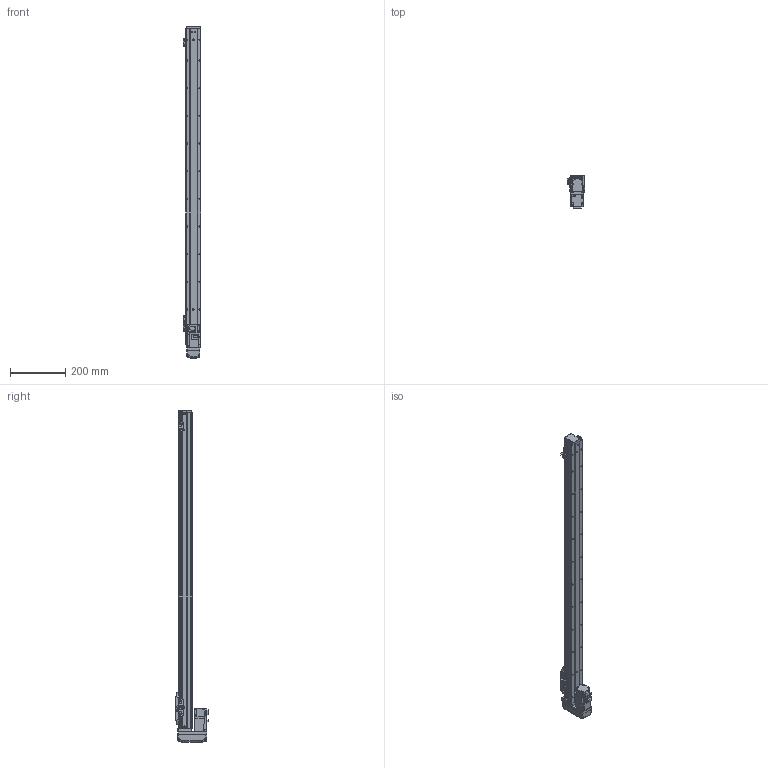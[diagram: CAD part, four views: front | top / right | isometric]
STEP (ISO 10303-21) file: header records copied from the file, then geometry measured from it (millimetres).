
FILE_DESCRIPTION (( 'STEP AP203' ), '1' );
FILE_NAME ('GTH5-1000-BM-M10-C4.step', '2023-08-28T00:50:17', ( '微软用户' ), ( '微软中国' ), 'SwSTEP 2.0', 'SolidWorks 2020', '' );
FILE_SCHEMA (( 'CONFIG_CONTROL_DESIGN' ));
Length unit declared in the file: millimetre
Products named in the file (19): GTH50-023; HG-KR13; GBT 70.3-M3℅6; GBT 70.1-M3℅6; GTH50-027-1_BTHA50-027-2; BTH-M3X5X6; GBT96.1-2002 3×0.8; GTH50-026; GTH50-001_1000; GTH50-024; GTH5-1000-BM-M10-C4; GBT 70.1-M4×16; GBT 70.1-M2.5×6; GTH50-003; GTH50-028; GTH50-006; GTH50-013; GTH50-022-1; GTH50-004
Assembly tree (57 placements, depth 2):
  GTH5-1000-BM-M10-C4
    GTH50-006
    GTH50-004
    GBT 70.3-M3℅6  x4
    BTH-M3X5X6  x8
    GTH50-001_1000
    GBT 70.1-M4×16  x8
    GTH50-003
    GTH50-013
    GTH50-023  x3
    GBT 70.1-M3℅6  x12
    GBT96.1-2002 3×0.8  x6
    GTH50-024  x3
    GBT 70.1-M2.5×6  x2
    GTH50-028  x2
    GTH50-022-1
    HG-KR13
    GTH50-027-1_BTHA50-027-2
    GTH50-026
Bounding box: 63.8 x 118.9 x 1200 mm (x, y, z)
Volume: 2634833.8 mm3; surface area: 401788.3 mm2
Topology: 59 solids, 59 shells, 2176 faces, 5064 edges, 3108 vertices
Faces by surface type: plane 1142, cylinder 605, cone 219, torus 162, bspline 40, sphere 8
Entity records: 40752 total; most frequent: CARTESIAN_POINT 8043, DIRECTION 6297, ORIENTED_EDGE 6042, EDGE_CURVE 3021, AXIS2_PLACEMENT_3D 2200, VERTEX_POINT 1910, VECTOR 1897, LINE 1897
